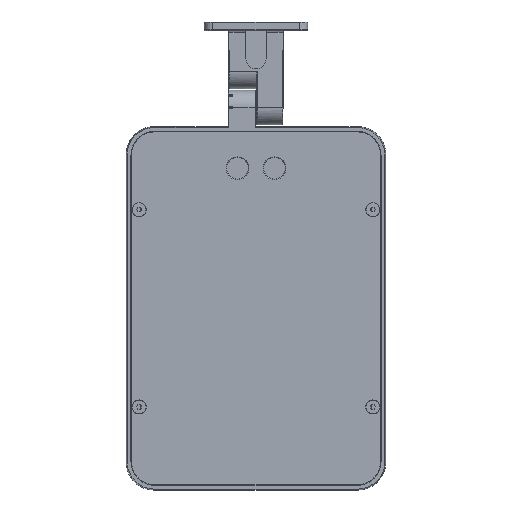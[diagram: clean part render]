
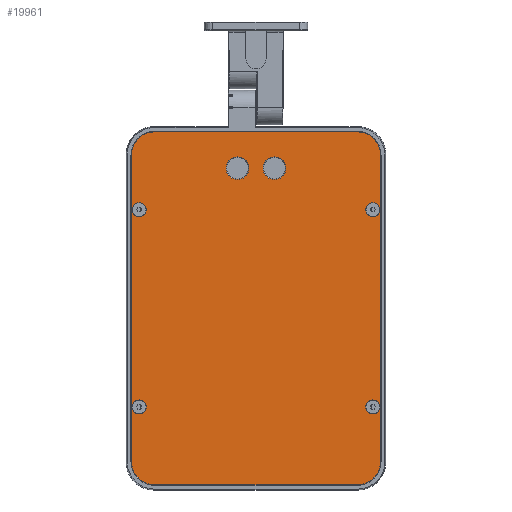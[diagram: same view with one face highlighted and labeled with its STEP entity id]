
A CAD part, front view. The second image highlights one B-rep face of the part: STEP entity #19961.
In plain terms, the highlighted planar face has unit normal (0, -1, 0).
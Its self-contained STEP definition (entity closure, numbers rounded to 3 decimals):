
#7645=CARTESIAN_POINT('',(67.5,0.5,57.));
#7646=DIRECTION('',(0.,-1.,0.));
#7647=DIRECTION('',(1.,0.,0.));
#7648=AXIS2_PLACEMENT_3D('',#7645,#7646,#7647);
#7650=CARTESIAN_POINT('',(67.5,0.5,57.));
#7651=DIRECTION('',(0.,-1.,0.));
#7652=DIRECTION('',(-1.,0.,0.));
#7653=AXIS2_PLACEMENT_3D('',#7650,#7651,#7652);
#7655=CARTESIAN_POINT('',(-67.5,0.5,-57.));
#7656=DIRECTION('',(0.,-1.,0.));
#7657=DIRECTION('',(-1.,0.,0.));
#7658=AXIS2_PLACEMENT_3D('',#7655,#7656,#7657);
#7660=CARTESIAN_POINT('',(-67.5,0.5,-57.));
#7661=DIRECTION('',(0.,-1.,0.));
#7662=DIRECTION('',(1.,0.,0.));
#7663=AXIS2_PLACEMENT_3D('',#7660,#7661,#7662);
#7665=CARTESIAN_POINT('',(-67.5,0.5,57.));
#7666=DIRECTION('',(0.,-1.,0.));
#7667=DIRECTION('',(1.,0.,0.));
#7668=AXIS2_PLACEMENT_3D('',#7665,#7666,#7667);
#7670=CARTESIAN_POINT('',(-67.5,0.5,57.));
#7671=DIRECTION('',(0.,-1.,0.));
#7672=DIRECTION('',(-1.,0.,0.));
#7673=AXIS2_PLACEMENT_3D('',#7670,#7671,#7672);
#7675=CARTESIAN_POINT('',(67.5,0.5,-57.));
#7676=DIRECTION('',(0.,-1.,0.));
#7677=DIRECTION('',(-1.,0.,0.));
#7678=AXIS2_PLACEMENT_3D('',#7675,#7676,#7677);
#7680=CARTESIAN_POINT('',(67.5,0.5,-57.));
#7681=DIRECTION('',(0.,-1.,0.));
#7682=DIRECTION('',(1.,0.,0.));
#7683=AXIS2_PLACEMENT_3D('',#7680,#7681,#7682);
#7685=CARTESIAN_POINT('',(58.5,0.5,-88.5));
#7686=DIRECTION('',(0.,1.,0.));
#7687=DIRECTION('',(1.,0.,0.));
#7688=AXIS2_PLACEMENT_3D('',#7685,#7686,#7687);
#7690=DIRECTION('',(-1.,0.,0.));
#7691=VECTOR('',#7690,117.);
#7692=CARTESIAN_POINT('',(58.5,0.5,-102.));
#7693=LINE('',#7692,#7691);
#7694=CARTESIAN_POINT('',(-58.5,0.5,-88.5));
#7695=DIRECTION('',(0.,1.,0.));
#7696=DIRECTION('',(0.,0.,-1.));
#7697=AXIS2_PLACEMENT_3D('',#7694,#7695,#7696);
#7699=DIRECTION('',(0.,0.,1.));
#7700=VECTOR('',#7699,177.);
#7701=CARTESIAN_POINT('',(-72.,0.5,-88.5));
#7702=LINE('',#7701,#7700);
#7703=CARTESIAN_POINT('',(-58.5,0.5,88.5));
#7704=DIRECTION('',(0.,1.,0.));
#7705=DIRECTION('',(-1.,0.,0.));
#7706=AXIS2_PLACEMENT_3D('',#7703,#7704,#7705);
#7708=DIRECTION('',(1.,0.,0.));
#7709=VECTOR('',#7708,117.);
#7710=CARTESIAN_POINT('',(-58.5,0.5,102.));
#7711=LINE('',#7710,#7709);
#7712=CARTESIAN_POINT('',(58.5,0.5,88.5));
#7713=DIRECTION('',(0.,1.,0.));
#7714=DIRECTION('',(0.,0.,1.));
#7715=AXIS2_PLACEMENT_3D('',#7712,#7713,#7714);
#7717=DIRECTION('',(0.,0.,-1.));
#7718=VECTOR('',#7717,177.);
#7719=CARTESIAN_POINT('',(72.,0.5,88.5));
#7720=LINE('',#7719,#7718);
#7721=CARTESIAN_POINT('',(-10.65,0.5,81.));
#7722=DIRECTION('',(0.,1.,0.));
#7723=DIRECTION('',(-1.,0.,0.));
#7724=AXIS2_PLACEMENT_3D('',#7721,#7722,#7723);
#7726=CARTESIAN_POINT('',(-10.65,0.5,81.));
#7727=DIRECTION('',(0.,1.,0.));
#7728=DIRECTION('',(1.,0.,0.));
#7729=AXIS2_PLACEMENT_3D('',#7726,#7727,#7728);
#7731=CARTESIAN_POINT('',(10.65,0.5,81.));
#7732=DIRECTION('',(0.,1.,0.));
#7733=DIRECTION('',(-1.,0.,0.));
#7734=AXIS2_PLACEMENT_3D('',#7731,#7732,#7733);
#7736=CARTESIAN_POINT('',(10.65,0.5,81.));
#7737=DIRECTION('',(0.,1.,0.));
#7738=DIRECTION('',(1.,0.,0.));
#7739=AXIS2_PLACEMENT_3D('',#7736,#7737,#7738);
#17199=CARTESIAN_POINT('',(71.55,0.5,57.));
#17200=CARTESIAN_POINT('',(63.45,0.5,57.));
#17201=VERTEX_POINT('',#17199);
#17202=VERTEX_POINT('',#17200);
#17207=CARTESIAN_POINT('',(58.5,0.5,-102.));
#17208=CARTESIAN_POINT('',(72.,0.5,-88.5));
#17209=VERTEX_POINT('',#17207);
#17210=VERTEX_POINT('',#17208);
#17211=CARTESIAN_POINT('',(72.,0.5,88.5));
#17212=VERTEX_POINT('',#17211);
#17213=CARTESIAN_POINT('',(58.5,0.5,102.));
#17214=VERTEX_POINT('',#17213);
#17215=CARTESIAN_POINT('',(-58.5,0.5,102.));
#17216=VERTEX_POINT('',#17215);
#17217=CARTESIAN_POINT('',(-72.,0.5,88.5));
#17218=VERTEX_POINT('',#17217);
#17219=CARTESIAN_POINT('',(-72.,0.5,-88.5));
#17220=VERTEX_POINT('',#17219);
#17221=CARTESIAN_POINT('',(-58.5,0.5,-102.));
#17222=VERTEX_POINT('',#17221);
#17243=CARTESIAN_POINT('',(-71.55,0.5,-57.));
#17244=CARTESIAN_POINT('',(-63.45,0.5,-57.));
#17245=VERTEX_POINT('',#17243);
#17246=VERTEX_POINT('',#17244);
#17255=CARTESIAN_POINT('',(-71.55,0.5,57.));
#17256=CARTESIAN_POINT('',(-63.45,0.5,57.));
#17257=VERTEX_POINT('',#17255);
#17258=VERTEX_POINT('',#17256);
#17259=CARTESIAN_POINT('',(71.55,0.5,-57.));
#17260=CARTESIAN_POINT('',(63.45,0.5,-57.));
#17261=VERTEX_POINT('',#17259);
#17262=VERTEX_POINT('',#17260);
#17555=CARTESIAN_POINT('',(-17.2,0.5,81.));
#17556=CARTESIAN_POINT('',(-4.1,0.5,81.));
#17557=VERTEX_POINT('',#17555);
#17558=VERTEX_POINT('',#17556);
#17563=CARTESIAN_POINT('',(4.1,0.5,81.));
#17564=CARTESIAN_POINT('',(17.2,0.5,81.));
#17565=VERTEX_POINT('',#17563);
#17566=VERTEX_POINT('',#17564);
#19902=CARTESIAN_POINT('',(0.,0.5,0.));
#19903=DIRECTION('',(0.,1.,0.));
#19904=DIRECTION('',(1.,0.,0.));
#19905=AXIS2_PLACEMENT_3D('',#19902,#19903,#19904);
#19906=PLANE('',#19905);
#19908=ORIENTED_EDGE('',*,*,#19907,.T.);
#19910=ORIENTED_EDGE('',*,*,#19909,.T.);
#19912=ORIENTED_EDGE('',*,*,#19911,.T.);
#19914=ORIENTED_EDGE('',*,*,#19913,.T.);
#19916=ORIENTED_EDGE('',*,*,#19915,.T.);
#19918=ORIENTED_EDGE('',*,*,#19917,.T.);
#19920=ORIENTED_EDGE('',*,*,#19919,.T.);
#19922=ORIENTED_EDGE('',*,*,#19921,.T.);
#19923=EDGE_LOOP('',(#19908,#19910,#19912,#19914,#19916,#19918,#19920,#19922));
#19924=FACE_OUTER_BOUND('',#19923,.F.);
#19926=ORIENTED_EDGE('',*,*,#19925,.T.);
#19928=ORIENTED_EDGE('',*,*,#19927,.T.);
#19929=EDGE_LOOP('',(#19926,#19928));
#19930=FACE_BOUND('',#19929,.F.);
#19932=ORIENTED_EDGE('',*,*,#19931,.T.);
#19934=ORIENTED_EDGE('',*,*,#19933,.T.);
#19935=EDGE_LOOP('',(#19932,#19934));
#19936=FACE_BOUND('',#19935,.F.);
#19938=ORIENTED_EDGE('',*,*,#19937,.T.);
#19940=ORIENTED_EDGE('',*,*,#19939,.T.);
#19941=EDGE_LOOP('',(#19938,#19940));
#19942=FACE_BOUND('',#19941,.F.);
#19944=ORIENTED_EDGE('',*,*,#19943,.T.);
#19946=ORIENTED_EDGE('',*,*,#19945,.T.);
#19947=EDGE_LOOP('',(#19944,#19946));
#19948=FACE_BOUND('',#19947,.F.);
#19950=ORIENTED_EDGE('',*,*,#19949,.F.);
#19952=ORIENTED_EDGE('',*,*,#19951,.F.);
#19953=EDGE_LOOP('',(#19950,#19952));
#19954=FACE_BOUND('',#19953,.F.);
#19956=ORIENTED_EDGE('',*,*,#19955,.F.);
#19958=ORIENTED_EDGE('',*,*,#19957,.F.);
#19959=EDGE_LOOP('',(#19956,#19958));
#19960=FACE_BOUND('',#19959,.F.);
#19961=ADVANCED_FACE('',(#19924,#19930,#19936,#19942,#19948,#19954,#19960),
#19906,.F.);
#7649=CIRCLE('',#7648,4.05);
#7654=CIRCLE('',#7653,4.05);
#7659=CIRCLE('',#7658,4.05);
#7664=CIRCLE('',#7663,4.05);
#7669=CIRCLE('',#7668,4.05);
#7674=CIRCLE('',#7673,4.05);
#7679=CIRCLE('',#7678,4.05);
#7684=CIRCLE('',#7683,4.05);
#7689=CIRCLE('',#7688,13.5);
#7698=CIRCLE('',#7697,13.5);
#7707=CIRCLE('',#7706,13.5);
#7716=CIRCLE('',#7715,13.5);
#7725=CIRCLE('',#7724,6.55);
#7730=CIRCLE('',#7729,6.55);
#7735=CIRCLE('',#7734,6.55);
#7740=CIRCLE('',#7739,6.55);
#19907=EDGE_CURVE('',#17210,#17209,#7689,.T.);
#19909=EDGE_CURVE('',#17209,#17222,#7693,.T.);
#19911=EDGE_CURVE('',#17222,#17220,#7698,.T.);
#19913=EDGE_CURVE('',#17220,#17218,#7702,.T.);
#19915=EDGE_CURVE('',#17218,#17216,#7707,.T.);
#19917=EDGE_CURVE('',#17216,#17214,#7711,.T.);
#19919=EDGE_CURVE('',#17214,#17212,#7716,.T.);
#19921=EDGE_CURVE('',#17212,#17210,#7720,.T.);
#19925=EDGE_CURVE('',#17245,#17246,#7659,.T.);
#19927=EDGE_CURVE('',#17246,#17245,#7664,.T.);
#19931=EDGE_CURVE('',#17258,#17257,#7669,.T.);
#19933=EDGE_CURVE('',#17257,#17258,#7674,.T.);
#19937=EDGE_CURVE('',#17262,#17261,#7679,.T.);
#19939=EDGE_CURVE('',#17261,#17262,#7684,.T.);
#19943=EDGE_CURVE('',#17201,#17202,#7649,.T.);
#19945=EDGE_CURVE('',#17202,#17201,#7654,.T.);
#19949=EDGE_CURVE('',#17557,#17558,#7725,.T.);
#19951=EDGE_CURVE('',#17558,#17557,#7730,.T.);
#19955=EDGE_CURVE('',#17565,#17566,#7735,.T.);
#19957=EDGE_CURVE('',#17566,#17565,#7740,.T.);
